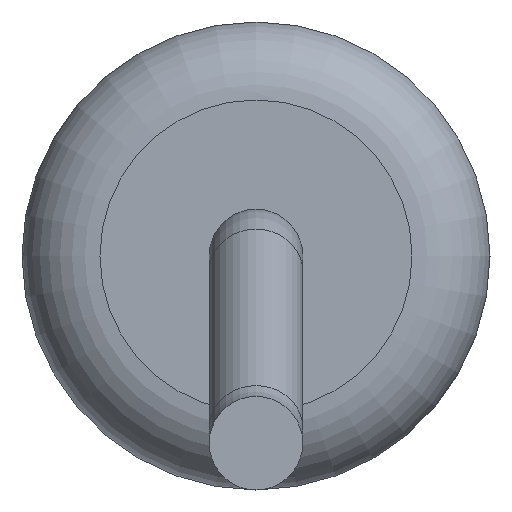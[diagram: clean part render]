
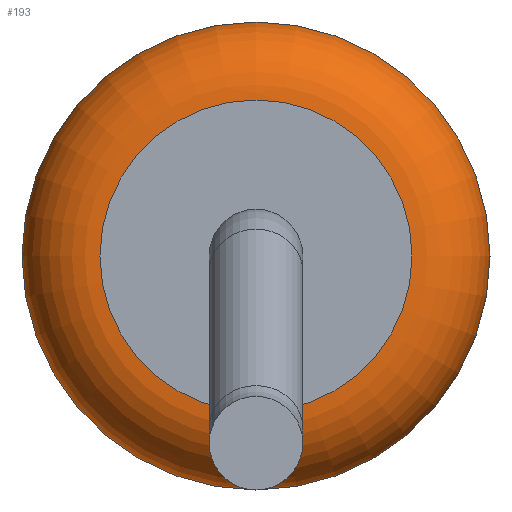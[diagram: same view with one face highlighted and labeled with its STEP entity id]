
A CAD part, left-side view. The second image highlights one B-rep face of the part: STEP entity #193.
In plain terms, the highlighted toroidal (fillet/blend) face has major radius 1 mm and minor radius 0.5 mm.
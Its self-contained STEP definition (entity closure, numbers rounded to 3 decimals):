
#193=ADVANCED_FACE('',(#398,#400),#402,.T.);
#398=FACE_OUTER_BOUND('',#399,.T.);
#399=EDGE_LOOP('',(#497));
#400=FACE_OUTER_BOUND('',#401,.T.);
#401=EDGE_LOOP('',(#498));
#402=TOROIDAL_SURFACE('',#403,1.,0.5);
#403=AXIS2_PLACEMENT_3D('',#404,#405,#406);
#404=CARTESIAN_POINT('',(-3.,0.,0.));
#405=DIRECTION('',(-1.,0.,0.));
#406=DIRECTION('',(0.,0.,1.));
#497=ORIENTED_EDGE('',*,*,#526,.T.);
#498=ORIENTED_EDGE('',*,*,#527,.F.);
#526=EDGE_CURVE('',#562,#562,#563,.T.);
#527=EDGE_CURVE('',#564,#564,#565,.T.);
#562=VERTEX_POINT('',#648);
#563=CIRCLE('',#649,1.5);
#564=VERTEX_POINT('',#653);
#565=CIRCLE('',#654,1.);
#648=CARTESIAN_POINT('',(-3.,0.,1.5));
#649=AXIS2_PLACEMENT_3D('',#650,#651,#652);
#650=CARTESIAN_POINT('',(-3.,0.,0.));
#651=DIRECTION('',(-1.,0.,0.));
#652=DIRECTION('',(0.,0.,1.));
#653=CARTESIAN_POINT('',(-3.5,0.,1.));
#654=AXIS2_PLACEMENT_3D('',#655,#656,#657);
#655=CARTESIAN_POINT('',(-3.5,0.,0.));
#656=DIRECTION('',(-1.,0.,0.));
#657=DIRECTION('',(0.,0.,1.));
